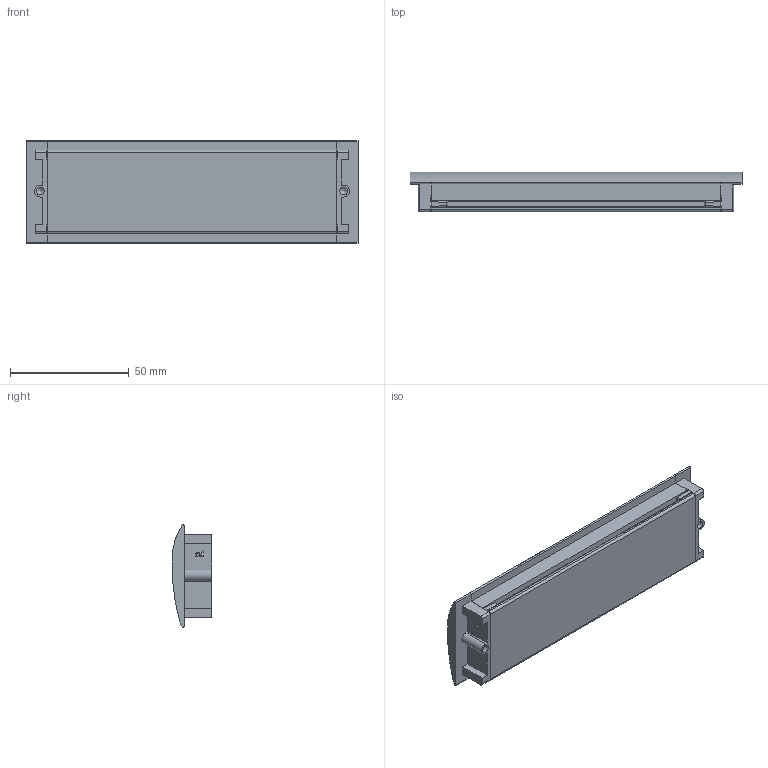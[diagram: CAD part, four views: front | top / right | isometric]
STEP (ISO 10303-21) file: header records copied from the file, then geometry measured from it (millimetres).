
FILE_DESCRIPTION(/* description */ (''),/* implementation_level */ '2;1');
FILE_NAME(/* name */ 'D:\$WorkingFolder\Designs\Meblowka\uchwyty\UA-...-326\UA-...-326...-..._\UA-...-3260128-....stp',/* time_stamp */ '2020-11-20T10:36:15+01:00',/* author */ ('ElizaL'),/* organization */ (''),/* preprocessor_version */ 'ST-DEVELOPER v18.1',/* originating_system */ 'Autodesk Inventor 2020',/* authorisation */ '');
FILE_SCHEMA (('AUTOMOTIVE_DESIGN { 1 0 10303 214 3 1 1 }'));
Length unit declared in the file: millimetre
Products named in the file (1): UA-...-326128-...
Bounding box: 140 x 16.7 x 43.4 mm (x, y, z)
Volume: 23835.7 mm3; surface area: 24207.6 mm2
Topology: 3 solids, 3 shells, 231 faces, 582 edges, 362 vertices
Faces by surface type: plane 117, cylinder 73, bspline 23, sphere 16, cone 2
Full cylindrical faces by diameter (mm): 3.242 x2
Entity records: 7177 total; most frequent: CARTESIAN_POINT 1366, ORIENTED_EDGE 1160, DIRECTION 1150, EDGE_CURVE 580, LINE 400, VECTOR 400, AXIS2_PLACEMENT_3D 375, VERTEX_POINT 362
